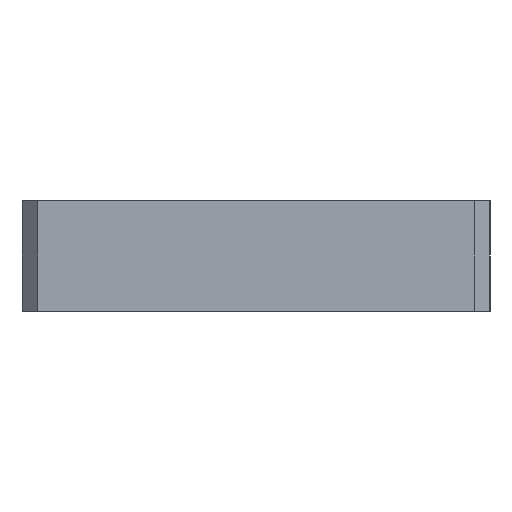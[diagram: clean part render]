
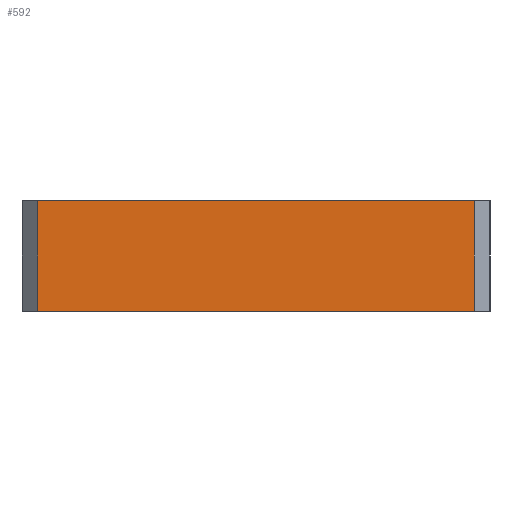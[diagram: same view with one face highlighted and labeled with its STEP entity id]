
A CAD part, left-side view. The second image highlights one B-rep face of the part: STEP entity #592.
In plain terms, the highlighted planar face has unit normal (-1, 0, 0).
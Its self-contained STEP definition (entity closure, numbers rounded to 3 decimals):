
#6 = DIRECTION ( 'NONE',  ( 0., -1., 0. ) ) ;
#21 = CARTESIAN_POINT ( 'NONE',  ( -23.5, 4.2, 7. ) ) ;
#30 = EDGE_CURVE ( 'NONE', #1032, #724, #243, .T. ) ;
#89 = VERTEX_POINT ( 'NONE', #402 ) ;
#101 = LINE ( 'NONE', #555, #1154 ) ;
#103 = VECTOR ( 'NONE', #720, 1000. ) ;
#117 = CARTESIAN_POINT ( 'NONE',  ( -23.5, 4.2, 0. ) ) ;
#138 = LINE ( 'NONE', #21, #387 ) ;
#180 = EDGE_CURVE ( 'NONE', #89, #724, #101, .T. ) ;
#243 = LINE ( 'NONE', #117, #1058 ) ;
#315 = FACE_OUTER_BOUND ( 'NONE', #1052, .T. ) ;
#327 = EDGE_CURVE ( 'NONE', #771, #89, #138, .T. ) ;
#350 = AXIS2_PLACEMENT_3D ( 'NONE', #1166, #1021, #901 ) ;
#387 = VECTOR ( 'NONE', #1072, 1000. ) ;
#402 = CARTESIAN_POINT ( 'NONE',  ( -23.5, -23.5, 7. ) ) ;
#444 = DIRECTION ( 'NONE',  ( 0., 0., -1. ) ) ;
#469 = PLANE ( 'NONE',  #350 ) ;
#532 = ORIENTED_EDGE ( 'NONE', *, *, #327, .F. ) ;
#533 = CARTESIAN_POINT ( 'NONE',  ( -23.5, 4.2, 0. ) ) ;
#555 = CARTESIAN_POINT ( 'NONE',  ( -23.5, -23.5, 7. ) ) ;
#592 = ADVANCED_FACE ( 'NONE', ( #315 ), #469, .F. ) ;
#628 = EDGE_CURVE ( 'NONE', #771, #1032, #966, .T. ) ;
#720 = DIRECTION ( 'NONE',  ( 0., 0., -1. ) ) ;
#724 = VERTEX_POINT ( 'NONE', #856 ) ;
#731 = ORIENTED_EDGE ( 'NONE', *, *, #628, .T. ) ;
#746 = ORIENTED_EDGE ( 'NONE', *, *, #180, .F. ) ;
#771 = VERTEX_POINT ( 'NONE', #895 ) ;
#841 = CARTESIAN_POINT ( 'NONE',  ( -23.5, 4.2, 7. ) ) ;
#856 = CARTESIAN_POINT ( 'NONE',  ( -23.5, -23.5, 0. ) ) ;
#895 = CARTESIAN_POINT ( 'NONE',  ( -23.5, 4.2, 7. ) ) ;
#901 = DIRECTION ( 'NONE',  ( 0., 0., -1. ) ) ;
#908 = ORIENTED_EDGE ( 'NONE', *, *, #30, .T. ) ;
#966 = LINE ( 'NONE', #841, #103 ) ;
#1021 = DIRECTION ( 'NONE',  ( 1., 0., 0. ) ) ;
#1032 = VERTEX_POINT ( 'NONE', #533 ) ;
#1052 = EDGE_LOOP ( 'NONE', ( #908, #746, #532, #731 ) ) ;
#1058 = VECTOR ( 'NONE', #6, 1000. ) ;
#1072 = DIRECTION ( 'NONE',  ( 0., -1., 0. ) ) ;
#1154 = VECTOR ( 'NONE', #444, 1000. ) ;
#1166 = CARTESIAN_POINT ( 'NONE',  ( -23.5, 4.2, 7. ) ) ;
